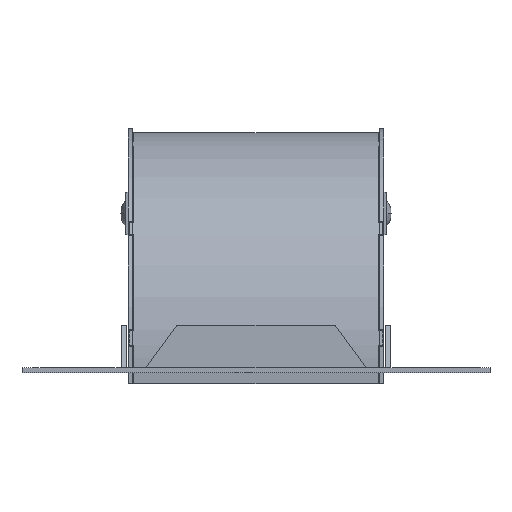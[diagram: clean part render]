
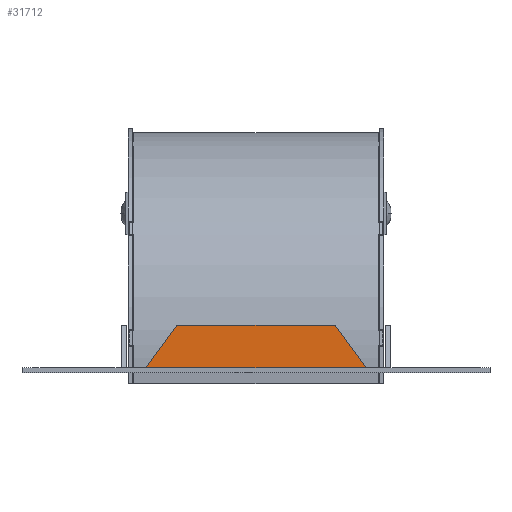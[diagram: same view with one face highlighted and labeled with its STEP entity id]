
A CAD part, left-side view. The second image highlights one B-rep face of the part: STEP entity #31712.
In plain terms, the highlighted free-form (B-spline) face has degree [1, 1] with [2, 2] control points.
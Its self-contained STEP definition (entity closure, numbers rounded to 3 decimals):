
#598 = DIRECTION ( 'NONE',  ( 0., -0.588, -0.809 ) ) ;
#1913 = EDGE_CURVE ( 'NONE', #4268, #10344, #20369, .T. ) ;
#2357 = CARTESIAN_POINT ( 'NONE',  ( -31.6, 18.613, 11.2 ) ) ;
#2402 = CARTESIAN_POINT ( 'NONE',  ( -31.6, -25.878, 1.2 ) ) ;
#4268 = VERTEX_POINT ( 'NONE', #25648 ) ;
#5339 = VECTOR ( 'NONE', #12171, 1000. ) ;
#5420 = ORIENTED_EDGE ( 'NONE', *, *, #27327, .F. ) ;
#7496 = CARTESIAN_POINT ( 'NONE',  ( -31.6, -18.613, 11.2 ) ) ;
#8262 = LINE ( 'NONE', #2402, #13109 ) ;
#8433 = CARTESIAN_POINT ( 'NONE',  ( -31.6, 25.878, 1.2 ) ) ;
#8591 = ORIENTED_EDGE ( 'NONE', *, *, #25049, .F. ) ;
#10058 = VERTEX_POINT ( 'NONE', #20163 ) ;
#10344 = VERTEX_POINT ( 'NONE', #14225 ) ;
#12171 = DIRECTION ( 'NONE',  ( 0., -1., 0. ) ) ;
#13109 = VECTOR ( 'NONE', #22380, 1000. ) ;
#14210 = FACE_OUTER_BOUND ( 'NONE', #31977, .T. ) ;
#14225 = CARTESIAN_POINT ( 'NONE',  ( -31.6, -18.613, 11.2 ) ) ;
#14317 = VECTOR ( 'NONE', #598, 1000. ) ;
#14372 = CARTESIAN_POINT ( 'NONE',  ( -31.6, 26.913, 1. ) ) ;
#15655 = LINE ( 'NONE', #7496, #14317 ) ;
#16841 = CARTESIAN_POINT ( 'NONE',  ( -31.6, -26.913, 11.4 ) ) ;
#18264 = ORIENTED_EDGE ( 'NONE', *, *, #29543, .F. ) ;
#18459 = VECTOR ( 'NONE', #20751, 1000. ) ;
#19462 = CARTESIAN_POINT ( 'NONE',  ( -31.6, 26.913, 11.4 ) ) ;
#19615 = VERTEX_POINT ( 'NONE', #8433 ) ;
#20163 = CARTESIAN_POINT ( 'NONE',  ( -31.6, -25.878, 1.2 ) ) ;
#20369 = LINE ( 'NONE', #2357, #5339 ) ;
#20751 = DIRECTION ( 'NONE',  ( 0., -0.588, 0.809 ) ) ;
#22380 = DIRECTION ( 'NONE',  ( 0., 1., 0. ) ) ;
#23028 = CARTESIAN_POINT ( 'NONE',  ( -31.6, 25.878, 1.2 ) ) ;
#25049 = EDGE_CURVE ( 'NONE', #19615, #4268, #30386, .T. ) ;
#25648 = CARTESIAN_POINT ( 'NONE',  ( -31.6, 18.613, 11.2 ) ) ;
#26639 = ORIENTED_EDGE ( 'NONE', *, *, #1913, .F. ) ;
#27327 = EDGE_CURVE ( 'NONE', #10344, #10058, #15655, .T. ) ;
#27649 = B_SPLINE_SURFACE_WITH_KNOTS ( 'NONE', 1, 1, ( 
 ( #31574, #16841 ),
 ( #14372, #19462 ) ),
 .UNSPECIFIED., .F., .F., .F.,
 ( 2, 2 ),
 ( 2, 2 ),
 ( -12.875, 40.952 ),
 ( 1., 11.4 ),
 .UNSPECIFIED. ) ;
#29543 = EDGE_CURVE ( 'NONE', #10058, #19615, #8262, .T. ) ;
#30386 = LINE ( 'NONE', #23028, #18459 ) ;
#31574 = CARTESIAN_POINT ( 'NONE',  ( -31.6, -26.913, 1. ) ) ;
#31712 = ADVANCED_FACE ( 'NONE', ( #14210 ), #27649, .F. ) ;
#31977 = EDGE_LOOP ( 'NONE', ( #8591, #18264, #5420, #26639 ) ) ;
